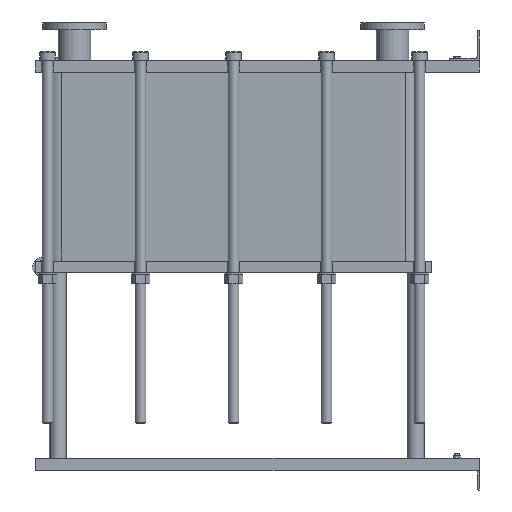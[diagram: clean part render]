
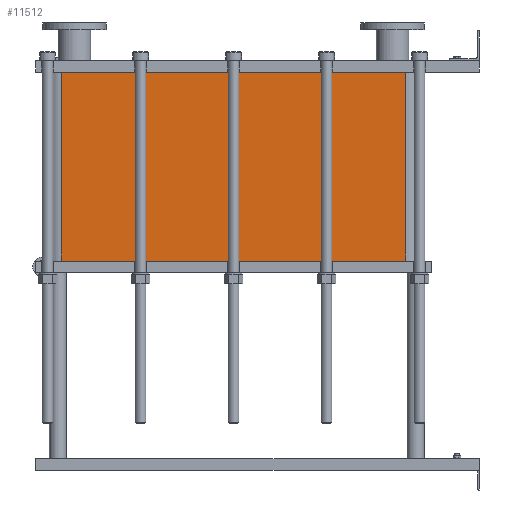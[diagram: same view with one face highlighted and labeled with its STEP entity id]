
A CAD part, left-side view. The second image highlights one B-rep face of the part: STEP entity #11512.
In plain terms, the highlighted planar face has unit normal (-1, 0, 0).
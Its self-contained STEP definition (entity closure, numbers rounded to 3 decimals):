
#1129=LINE('',#23232,#2102);
#1130=LINE('',#23236,#2103);
#1131=LINE('',#23238,#2104);
#1132=LINE('',#23239,#2105);
#2102=VECTOR('',#15887,10.);
#2103=VECTOR('',#15892,10.);
#2104=VECTOR('',#15893,10.);
#2105=VECTOR('',#15894,10.);
#3267=FACE_OUTER_BOUND('',#4093,.T.);
#4093=EDGE_LOOP('',(#10103,#10104,#10105,#10106));
#5642=VERTEX_POINT('',#23229);
#5643=VERTEX_POINT('',#23231);
#5644=VERTEX_POINT('',#23235);
#5645=VERTEX_POINT('',#23237);
#7159=EDGE_CURVE('',#5643,#5642,#1129,.T.);
#7161=EDGE_CURVE('',#5642,#5644,#1130,.T.);
#7162=EDGE_CURVE('',#5645,#5644,#1131,.T.);
#7163=EDGE_CURVE('',#5645,#5643,#1132,.T.);
#10103=ORIENTED_EDGE('',*,*,#7161,.T.);
#10104=ORIENTED_EDGE('',*,*,#7162,.F.);
#10105=ORIENTED_EDGE('',*,*,#7163,.T.);
#10106=ORIENTED_EDGE('',*,*,#7159,.T.);
#10857=PLANE('',#12751);
#11512=ADVANCED_FACE('',(#3267),#10857,.T.);
#12751=AXIS2_PLACEMENT_3D('',#23234,#15890,#15891);
#15887=DIRECTION('',(0.,0.,-1.));
#15890=DIRECTION('center_axis',(-1.,0.,0.));
#15891=DIRECTION('ref_axis',(0.,1.,0.));
#15892=DIRECTION('',(0.,-1.,0.));
#15893=DIRECTION('',(0.,0.,-1.));
#15894=DIRECTION('',(0.,1.,0.));
#23229=CARTESIAN_POINT('',(-200.,1414.,-638.25));
#23231=CARTESIAN_POINT('',(-200.,1414.,0.));
#23232=CARTESIAN_POINT('',(-200.,1414.,0.));
#23234=CARTESIAN_POINT('Origin',(-200.,248.,0.));
#23235=CARTESIAN_POINT('',(-200.,248.,-638.25));
#23236=CARTESIAN_POINT('',(-200.,539.5,-638.25));
#23237=CARTESIAN_POINT('',(-200.,248.,0.));
#23238=CARTESIAN_POINT('',(-200.,248.,0.));
#23239=CARTESIAN_POINT('',(-200.,248.,0.));
